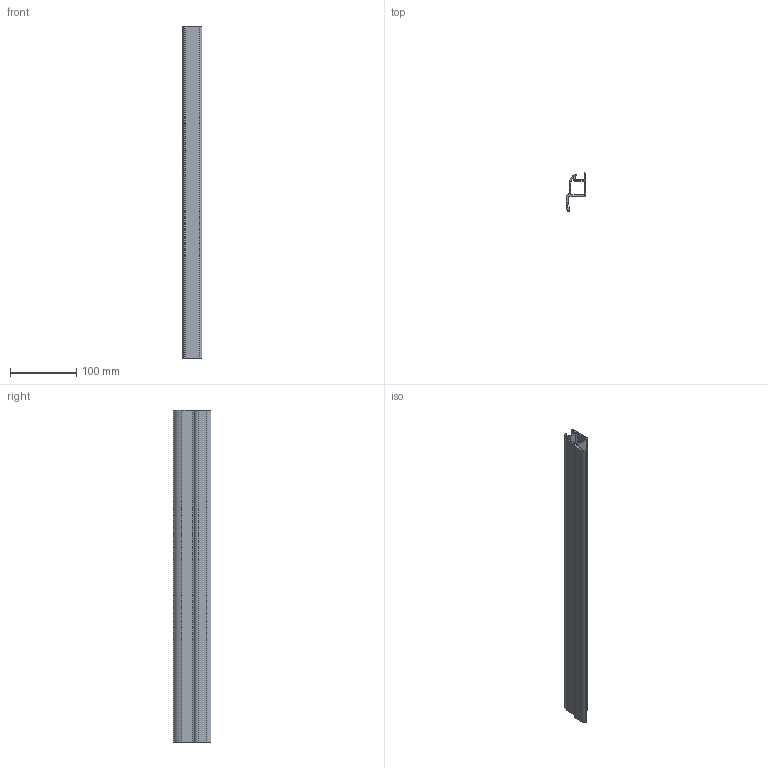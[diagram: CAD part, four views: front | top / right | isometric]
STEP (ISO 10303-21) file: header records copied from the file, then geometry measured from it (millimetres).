
FILE_DESCRIPTION (( 'STEP AP214' ), '1' );
FILE_NAME ('A40721.step', '2024-12-03T16:12:12', ( '' ), ( '' ), 'SwSTEP 2.0', 'SolidWorks 2023', '' );
FILE_SCHEMA (( 'AUTOMOTIVE_DESIGN' ));
Length unit declared in the file: millimetre
Products named in the file (1): A40721
Bounding box: 29.8 x 57 x 500 mm (x, y, z)
Volume: 156091.2 mm3; surface area: 141280.7 mm2
Topology: 1 solids, 1 shells, 43 faces, 123 edges, 82 vertices
Faces by surface type: plane 26, cylinder 17
Entity records: 1438 total; most frequent: CARTESIAN_POINT 249, ORIENTED_EDGE 246, DIRECTION 245, EDGE_CURVE 123, LINE 89, VECTOR 89, VERTEX_POINT 82, AXIS2_PLACEMENT_3D 78
